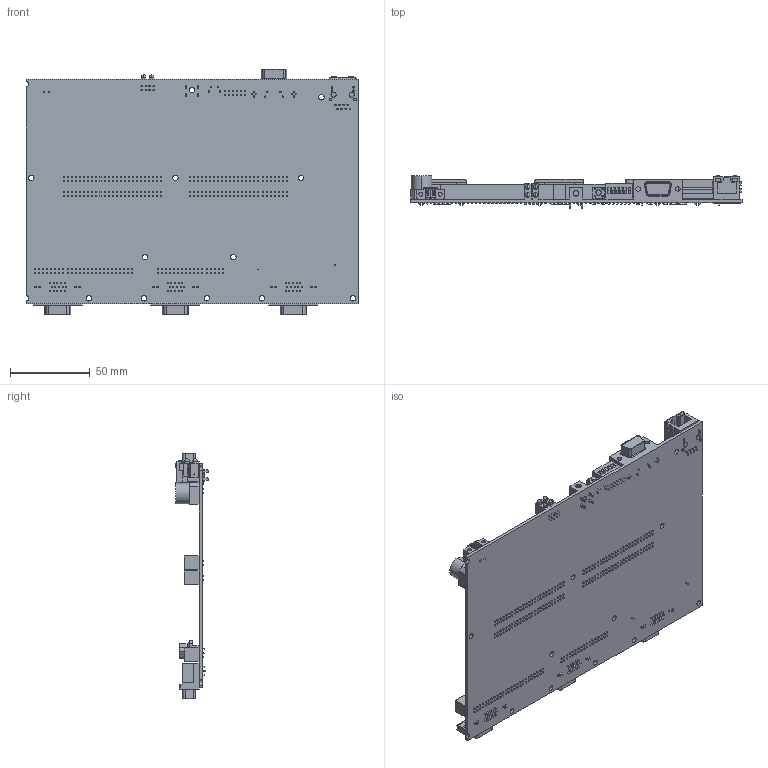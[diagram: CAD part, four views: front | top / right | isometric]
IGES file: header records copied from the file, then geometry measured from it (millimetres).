
Start section:  PTC IGES file: cu_cca_dwood.igs
Global section: file name: cu_cca_dwood.igs; native system: Pro/ENGINEER by Parametric Technology Corporation; preprocessor: 2006300; author: scarrasc; organization: Unknown; date: 20080730.104453; units: inch
Bounding box: 208.28 x 20.62 x 154.03 mm (x, y, z)
Surface area: 95086.7 mm2 (no closed solid volume)
Topology: 0 solids, 0 shells, 4214 faces, 20651 edges, 20641 vertices
Faces by surface type: bspline 3883, revolution 331
